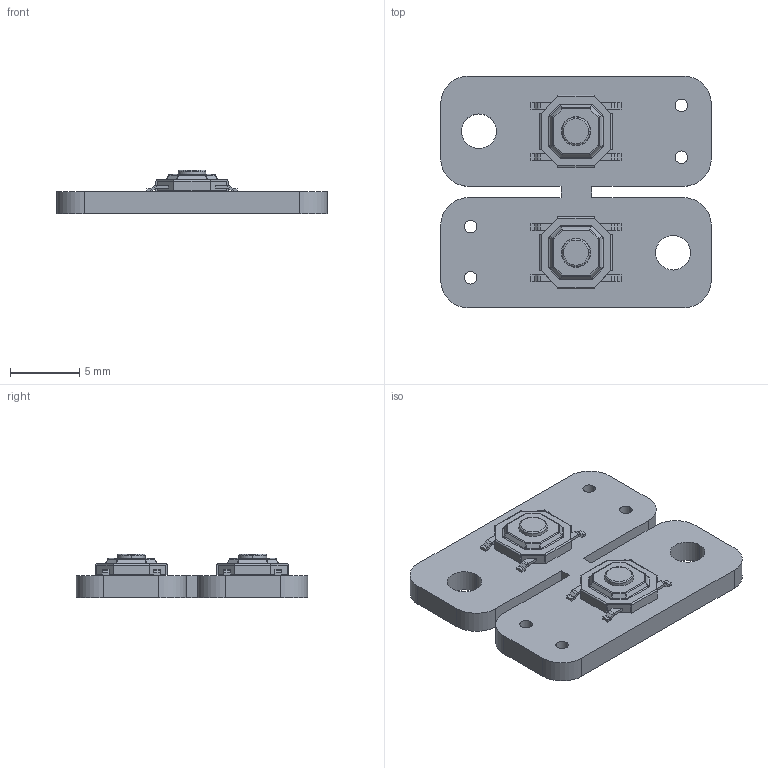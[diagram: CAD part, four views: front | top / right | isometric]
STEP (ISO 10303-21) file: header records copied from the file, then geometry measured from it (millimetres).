
FILE_DESCRIPTION(('Designed by EasyEDA Pro'),'2;1');
FILE_NAME('Open CASCADE Shape Model','2026-08-10T12:47:00',('Author'),( 'Open CASCADE'),'Open CASCADE STEP processor 7.8','Open CASCADE 7.8' ,'Unknown');
FILE_SCHEMA(('AUTOMOTIVE_DESIGN { 1 0 10303 214 1 1 1 1 }'));
Length unit declared in the file: millimetre
Products named in the file (11): EasyEDA PCB Model~SJlN; Board~SJlN; TopCopper~SJlN; BottomCopper~SJlN; TopSilkscreen~SJlN; BottomSilkscreen~SJlN; TopFpcStiffener~SJlN; BottomFpcStiffener~SJlN; SW-SMD_4P-L5.1-W5.1-P3.70-LS6.5-TL_H1.5~SW-SMD_4P-L5.1-W5.1-P3.70-LS6.5-TL_H1.5~aO9d; SW1~SW-SMD_4P-L5.1-W5.1-P3.70-LS6.5-TL_H1.5~SW-SMD_4P-L5.1-W5.1-P3.70-LS6.5-TL_H1.5~qoEM; SW2~SW-SMD_4P-L5.1-W5.1-P3.70-LS6.5-TL_H1.5~SW-SMD_4P-L5.1-W5.1-P3.70-LS6.5-TL_H1.5~QwDm
Assembly tree (11 placements, depth 3):
  EasyEDA PCB Model~SJlN
    Board~SJlN
    TopCopper~SJlN
    BottomCopper~SJlN
    TopSilkscreen~SJlN
    BottomSilkscreen~SJlN
    TopFpcStiffener~SJlN
    BottomFpcStiffener~SJlN
    SW1~SW-SMD_4P-L5.1-W5.1-P3.70-LS6.5-TL_H1.5~SW-SMD_4P-L5.1-W5.1-P3.70-LS6.5-TL_H1.5~qoEM
      SW-SMD_4P-L5.1-W5.1-P3.70-LS6.5-TL_H1.5~SW-SMD_4P-L5.1-W5.1-P3.70-LS6.5-TL_H1.5~aO9d
    SW2~SW-SMD_4P-L5.1-W5.1-P3.70-LS6.5-TL_H1.5~SW-SMD_4P-L5.1-W5.1-P3.70-LS6.5-TL_H1.5~QwDm
      SW-SMD_4P-L5.1-W5.1-P3.70-LS6.5-TL_H1.5~SW-SMD_4P-L5.1-W5.1-P3.70-LS6.5-TL_H1.5~aO9d
Bounding box: 19.51 x 16.71 x 3.15 mm (x, y, z)
Volume: 517.6 mm3; surface area: 1068.5 mm2
Topology: 7 solids, 7 shells, 866 faces, 2162 edges, 1360 vertices
Faces by surface type: plane 498, bspline 228, cylinder 120, sphere 16, torus 4
Entity records: 19015 total; most frequent: CARTESIAN_POINT 3894, ORIENTED_EDGE 2270, DIRECTION 1753, EDGE_CURVE 1135, LINE 755, VECTOR 755, VERTEX_POINT 716, AXIS2_PLACEMENT_3D 499
